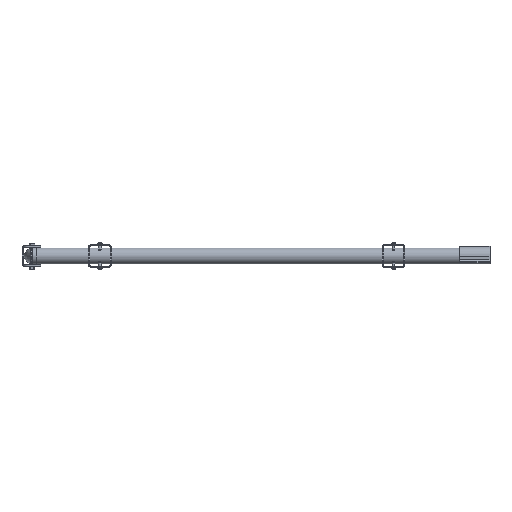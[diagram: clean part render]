
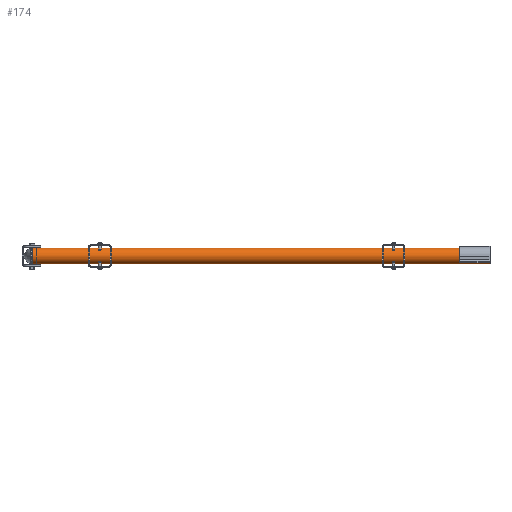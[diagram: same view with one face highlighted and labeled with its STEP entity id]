
A CAD part, left-side view. The second image highlights one B-rep face of the part: STEP entity #174.
In plain terms, the highlighted cylindrical face has radius 21.2 mm (diameter 42.4 mm), a full revolution.
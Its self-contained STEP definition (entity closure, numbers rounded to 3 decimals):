
#140=CARTESIAN_POINT('',(-21.2,-116.,0.));
#141=VERTEX_POINT('',#140);
#142=CARTESIAN_POINT('',(0.0,-116.,0.0));
#143=DIRECTION('',(0.0,1.0,0.0));
#144=DIRECTION('',(1.0,0.0,0.0));
#145=AXIS2_PLACEMENT_3D('',#142,#143,#144);
#146=CIRCLE('',#145,21.2);
#147=EDGE_CURVE('',#141,#141,#146,.T.);
#155=CARTESIAN_POINT('',(0.0,0.0,0.0));
#156=DIRECTION('',(0.0,1.0,0.0));
#157=DIRECTION('',(1.0,0.0,0.0));
#158=AXIS2_PLACEMENT_3D('',#155,#156,#157);
#159=CYLINDRICAL_SURFACE('',#158,21.2);
#160=ORIENTED_EDGE('',*,*,#147,.T.);
#161=EDGE_LOOP('',(#160));
#162=FACE_OUTER_BOUND('',#161,.T.);
#163=CARTESIAN_POINT('',(-21.2,1100.0,0.));
#164=VERTEX_POINT('',#163);
#165=CARTESIAN_POINT('',(0.0,1100.0,0.0));
#166=DIRECTION('',(0.0,-1.0,0.0));
#167=DIRECTION('',(1.0,0.0,0.0));
#168=AXIS2_PLACEMENT_3D('',#165,#166,#167);
#169=CIRCLE('',#168,21.2);
#170=EDGE_CURVE('',#164,#164,#169,.T.);
#171=ORIENTED_EDGE('',*,*,#170,.T.);
#172=EDGE_LOOP('',(#171));
#173=FACE_BOUND('',#172,.T.);
#174=ADVANCED_FACE('',(#162,#173),#159,.T.);
